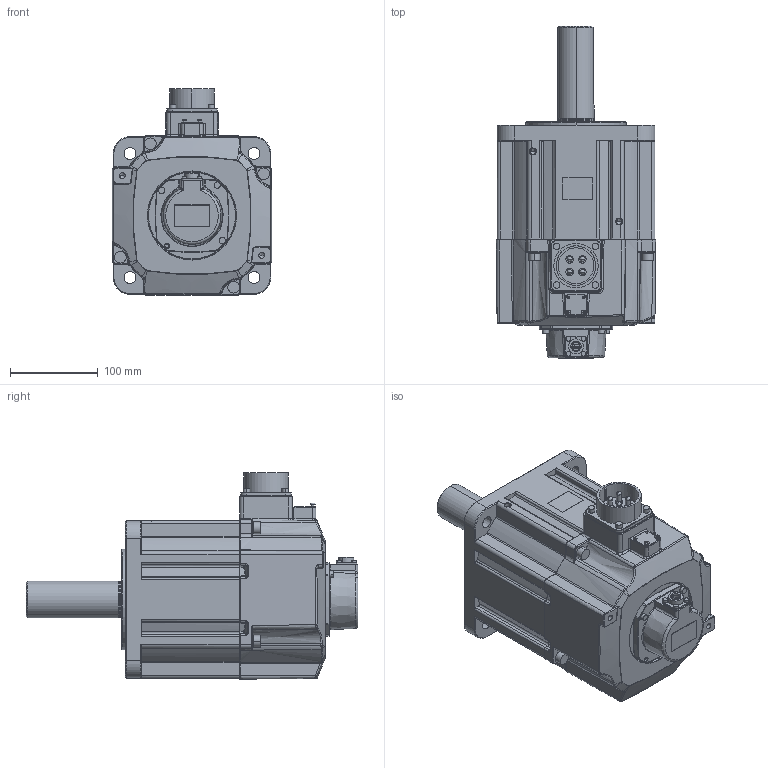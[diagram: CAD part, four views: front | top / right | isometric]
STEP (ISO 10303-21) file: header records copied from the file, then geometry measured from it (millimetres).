
FILE_DESCRIPTION((''),'2;1');
FILE_NAME('ECM-B3M-F_1855SS__SW0001','2021-05-10T15:04:39',('MIO.CHEN'),(''),'CREO PARAMETRIC BY PTC INC, 2017110','CREO PARAMETRIC BY PTC INC, 2017110','');
FILE_SCHEMA(('CONFIG_CONTROL_DESIGN'));
Products named in the file (1): ECM-B3M-F_1855SS__SW0001
Bounding box: 181.48 x 378.2 x 235.04 mm (x, y, z)
Volume: 6701819.7 mm3; surface area: 286512.4 mm2
Topology: 1 solids, 1 shells, 1620 faces, 3978 edges, 2435 vertices
Faces by surface type: cylinder 440, plane 439, bspline 408, cone 218, torus 102, sphere 9, extrusion 4
Entity records: 69770 total; most frequent: CARTESIAN_POINT 34260, ORIENTED_EDGE 7928, DIRECTION 6716, EDGE_CURVE 3964, AXIS2_PLACEMENT_3D 2644, VERTEX_POINT 2435, EDGE_LOOP 1721, FACE_OUTER_BOUND 1620
